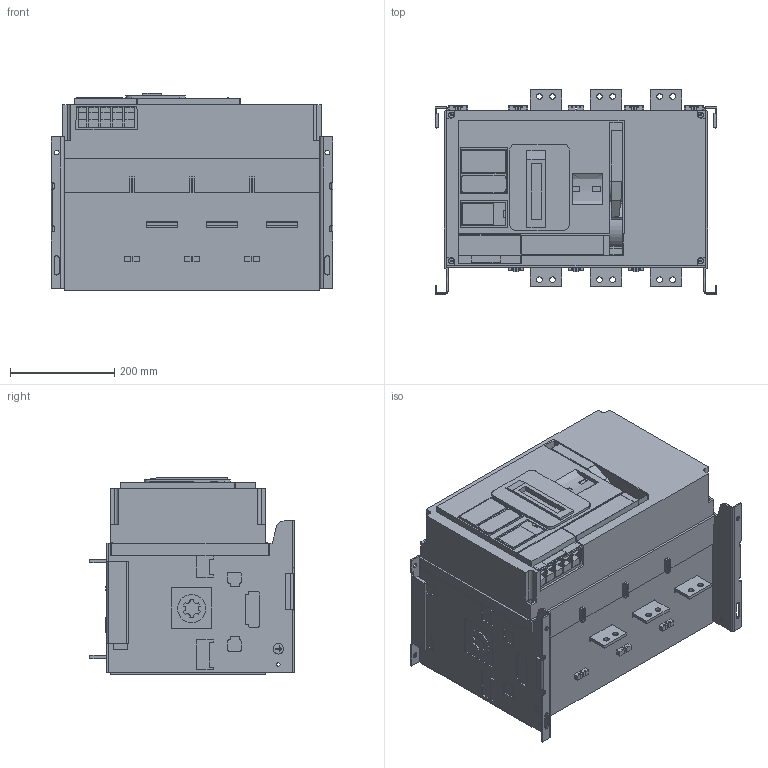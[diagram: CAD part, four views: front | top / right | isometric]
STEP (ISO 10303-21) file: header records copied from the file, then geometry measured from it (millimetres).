
FILE_DESCRIPTION((''),'2;1');
FILE_NAME('TA1AD3L12H4TPE_3D-SIMPLIFIED_ASM','2024-07-04T15:57:06',('SESA540900'),('Schneider-Electric'),'CREO PARAMETRIC BY PTC INC, 2021284','CREO PARAMETRIC BY PTC INC, 2021284','');
FILE_SCHEMA(('AP242_MANAGED_MODEL_BASED_3D_ENGINEERING_MIM_LF { 1 0 10303 442 1 1 4 }'));
Length unit declared in the file: millimetre
Products named in the file (2): PRT0002; TA1AD3L12H4TPE_3D-SIMPLIFIED_ASM
Assembly tree (1 placements, depth 2):
  TA1AD3L12H4TPE_3D-SIMPLIFIED_ASM
    PRT0002
Bounding box: 540 x 391 x 378 mm (x, y, z)
Volume: 53052818.7 mm3; surface area: 1345191.4 mm2
Topology: 1 solids, 8 shells, 1212 faces, 3433 edges, 2350 vertices
Faces by surface type: plane 875, cylinder 313, extrusion 24
Entity records: 50053 total; most frequent: CARTESIAN_POINT 7685, ORIENTED_EDGE 6850, DIRECTION 6549, EDGE_CURVE 3425, VECTOR 2555, LINE 2531, VERTEX_POINT 2346, AXIS2_PLACEMENT_3D 1997
